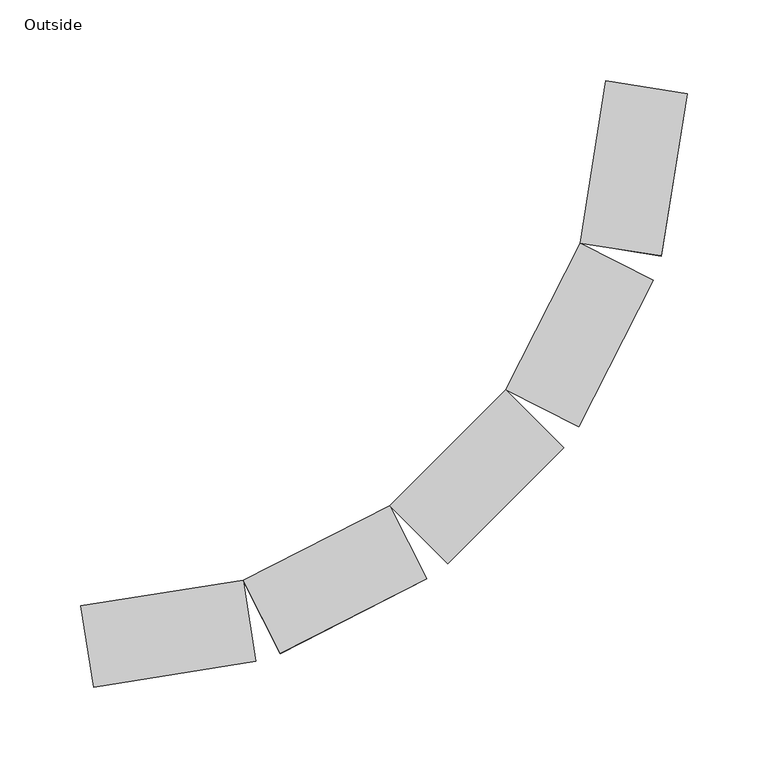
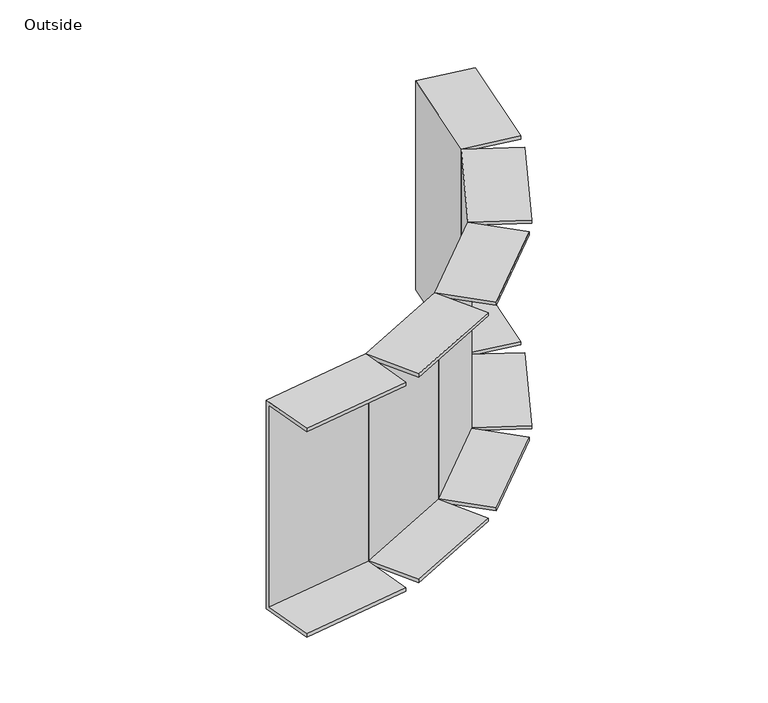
"""IFC4 building model written with IfcOpenShell, lengths in millimetres: cable carrier fitting geometry, Bend-Vertical-Cablofil-Wire_Mesh_Cable_Tray-Cablobend : Outside."""

from ifc_helpers import new_model, si_unit, frame, origin, place, context, project, spatial, polyline, outline, extrude, source, transform, mapped, element, save


def outside_e205a3c8(model_context):
    return source(origin(), model_context, "Body", "SweptSolid", [
        extrude(outline(polyline([(-50.8, 0.0), (0.0, 0.0), (0.0, -203.2), (-50.8, -203.2), (-50.8, -200.025), (-3.175, -200.025), (-3.175, -3.175), (-50.8, -3.175), (-50.8, 0.0)])), frame((-159.2612254, 87.4191764, 101.6), z_axis=(0.7071067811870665, 0.7071067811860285, 0.0), x_axis=(-0.7071067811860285, 0.7071067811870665, 0.0)), (0.0, 0.0, 1.0), 101.6),
        extrude(outline(polyline([(-50.8, 0.0), (0.0, 0.0), (0.0, -203.2), (-50.8, -203.2), (-50.8, -200.025), (-3.175, -200.025), (-3.175, -3.175), (-50.8, -3.175), (-50.8, 0.0)])), frame((-350.1366237, 25.4, 101.6), z_axis=(0.9876883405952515, 0.15643446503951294, 0.0), x_axis=(-0.15643446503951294, 0.9876883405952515, 0.0)), (0.0, 0.0, 1.0), 101.6),
        extrude(outline(polyline([(-50.8, 0.0), (0.0, 0.0), (0.0, -203.2), (-50.8, -203.2), (-50.8, -200.025), (-3.1749999, -200.025), (-3.1749999, -3.175), (-50.8, -3.175), (-50.8, 0.0)])), frame((-41.2937416, 249.7874882, 101.6), z_axis=(0.15643446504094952, 0.9876883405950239, 0.0), x_axis=(-0.9876883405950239, 0.15643446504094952, 0.0)), (0.0, 0.0, 1.0), 101.6),
        extrude(outline(polyline([(-50.7999999, 0.0), (0.0, 0.0), (0.0, -203.2), (-50.7999999, -203.2), (-50.7999999, -200.025), (-3.175, -200.025), (-3.175, -3.175), (-50.7999999, -3.175), (-50.7999999, 0.0)])), frame((-249.7874882, 41.2937416, 101.6), z_axis=(0.8910065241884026, 0.45399049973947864, 0.0), x_axis=(-0.45399049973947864, 0.8910065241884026, 0.0)), (0.0, 0.0, 1.0), 101.6),
        extrude(outline(polyline([(-50.8, 0.0), (0.0, 0.0), (0.0, -203.2), (-50.8, -203.2), (-50.8, -200.025), (-3.175, -200.025), (-3.175, -3.175), (-50.8, -3.175), (-50.8, 0.0)])), frame((-87.4191764, 159.2612254, 101.6), z_axis=(0.4539904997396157, 0.8910065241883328, 0.0), x_axis=(-0.8910065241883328, 0.4539904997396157, 0.0)), (0.0, 0.0, 1.0), 101.6),
    ])


if __name__ == "__main__":
    model = new_model("IFC4")
    model_context = context("Model", 3, world=origin())
    ifc_project = project(units=[si_unit("LENGTHUNIT", "METRE", prefix="MILLI")], contexts=[model_context])
    site = spatial("IfcSite", under=ifc_project)
    building = spatial("IfcBuilding", under=site)
    placement = place(None, origin())
    outside_shape = outside_e205a3c8(model_context)
    element("IfcCableCarrierFitting", 1, ObjectType="Bend-Vertical-Cablofil-Wire_Mesh_Cable_Tray-Cablobend : Outside", at=placement, inside=building, context=model_context, shape_type="MappedRepresentation", body=[
        mapped(outside_shape, transform((0.0, 0.0, 0.0), x_axis=(1.0, 0.0, 0.0), y_axis=(0.0, 1.0, 0.0), z_axis=(0.0, 0.0, 1.0))),
    ])
    save(model, "model.ifc")
